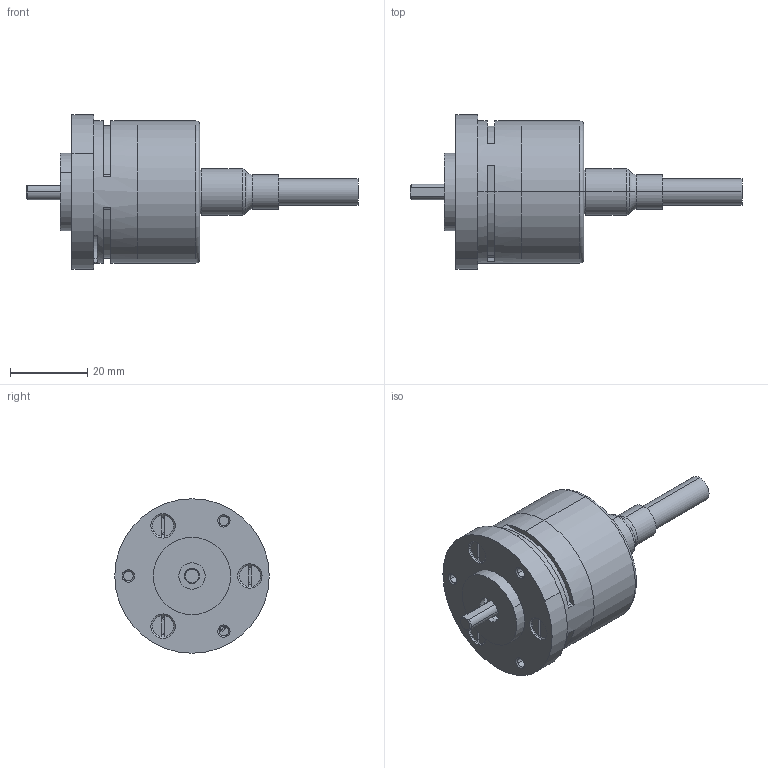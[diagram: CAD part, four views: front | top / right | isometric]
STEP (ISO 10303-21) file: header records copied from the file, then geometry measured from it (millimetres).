
FILE_DESCRIPTION (( 'STEP AP214' ), '1' );
FILE_NAME ('3700.A1X1.XXXX.STEP', '2008-11-25T07:53:29', ( 'admin' ), ( 'Fritz Kübler GmbH' ), 'SwSTEP 2.0', 'SolidWorks 2008', '' );
FILE_SCHEMA (( 'AUTOMOTIVE_DESIGN' ));
Length unit declared in the file: millimetre
Products named in the file (1): 3700.A1X1.XXXX
Bounding box: 86 x 40 x 40 mm (x, y, z)
Volume: 20709.7 mm3; surface area: 20344 mm2
Topology: 9 solids, 9 shells, 559 faces, 1326 edges, 801 vertices
Faces by surface type: cylinder 235, plane 138, torus 88, cone 46, bspline 27, sphere 25
Entity records: 23218 total; most frequent: CARTESIAN_POINT 4018, DIRECTION 2930, ORIENTED_EDGE 2606, EDGE_CURVE 1303, AXIS2_PLACEMENT_3D 1242, VERTEX_POINT 791, CIRCLE 709, EDGE_LOOP 608
